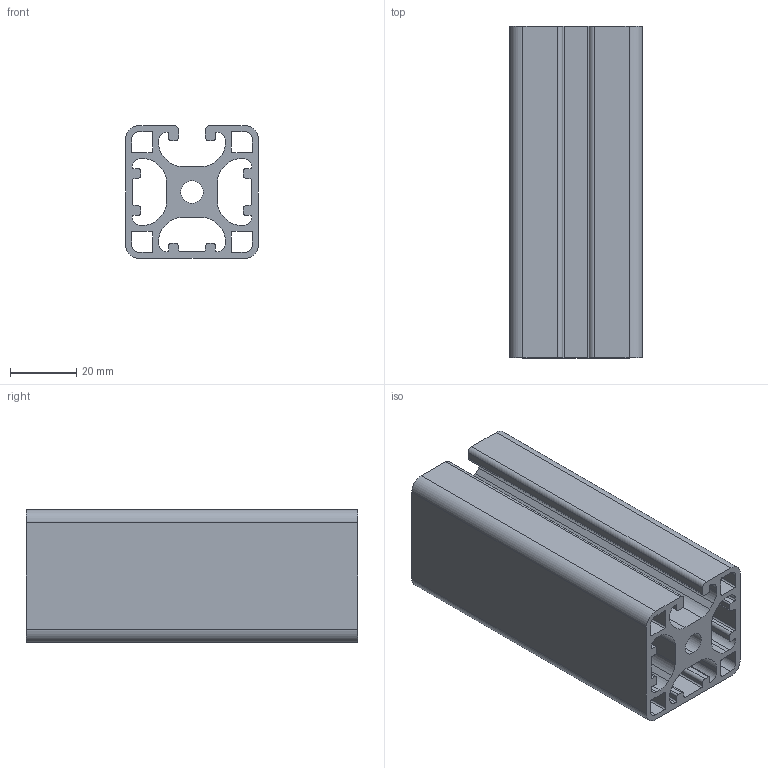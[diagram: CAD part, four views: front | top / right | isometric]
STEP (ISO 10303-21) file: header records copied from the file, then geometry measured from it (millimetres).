
FILE_DESCRIPTION (( 'STEP AP203' ), '1' );
FILE_NAME ('0108P4040-3NL.STEP', '2024-02-29T08:41:17', ( 'Windows-Benutzer' ), ( '' ), 'SwSTEP 2.0', 'SolidWorks 2023', '' );
FILE_SCHEMA (( 'CONFIG_CONTROL_DESIGN' ));
Length unit declared in the file: millimetre
Products named in the file (1): 0108P4040-3NL
Bounding box: 40 x 100 x 40 mm (x, y, z)
Volume: 70829.6 mm3; surface area: 51279.8 mm2
Topology: 1 solids, 1 shells, 150 faces, 444 edges, 296 vertices
Faces by surface type: cylinder 78, plane 72
Entity records: 5173 total; most frequent: DIRECTION 902, CARTESIAN_POINT 891, ORIENTED_EDGE 888, EDGE_CURVE 444, AXIS2_PLACEMENT_3D 307, VERTEX_POINT 296, VECTOR 288, LINE 288
